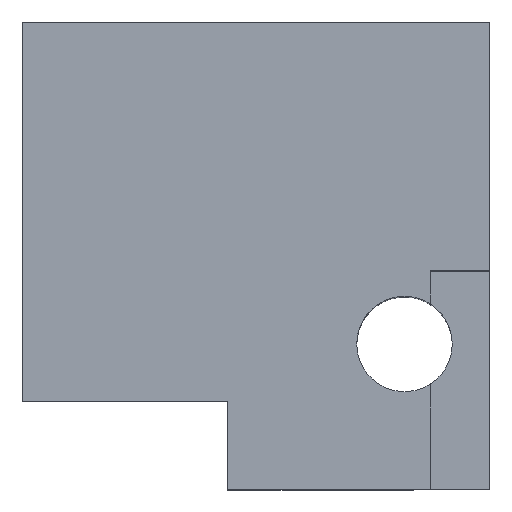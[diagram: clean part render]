
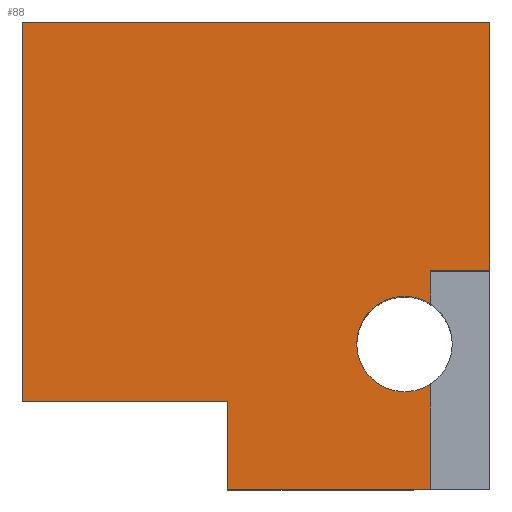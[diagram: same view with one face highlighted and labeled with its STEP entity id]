
A CAD part, top view. The second image highlights one B-rep face of the part: STEP entity #88.
In plain terms, the highlighted planar face has unit normal (0, 0, 1).
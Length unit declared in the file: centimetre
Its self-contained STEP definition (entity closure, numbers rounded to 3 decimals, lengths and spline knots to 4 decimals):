
#27 = FACE_OUTER_BOUND ( 'NONE', #1232, .T. ) ;
#37 = DIRECTION ( 'NONE',  ( 0., 0., 1. ) ) ;
#38 = DIRECTION ( 'NONE',  ( 0., 1., 0. ) ) ;
#51 = CARTESIAN_POINT ( 'NONE',  ( 1000., 467.2419, 1000. ) ) ;
#60 = LINE ( 'NONE', #1457, #585 ) ;
#68 = VERTEX_POINT ( 'NONE', #1164 ) ;
#76 = DIRECTION ( 'NONE',  ( -1., 0., 0. ) ) ;
#88 = ADVANCED_FACE ( 'NONE', ( #27 ), #658, .T. ) ;
#142 = EDGE_CURVE ( 'NONE', #939, #1284, #922, .T. ) ;
#163 = EDGE_CURVE ( 'NONE', #576, #1422, #1321, .T. ) ;
#197 = CARTESIAN_POINT ( 'NONE',  ( 1000., 1000., 1000. ) ) ;
#219 = VECTOR ( 'NONE', #1435, 100. ) ;
#247 = DIRECTION ( 'NONE',  ( 0., 0., 1. ) ) ;
#252 = AXIS2_PLACEMENT_3D ( 'NONE', #1556, #294, #796 ) ;
#270 = ORIENTED_EDGE ( 'NONE', *, *, #610, .F. ) ;
#294 = DIRECTION ( 'NONE',  ( 0., 0., 1. ) ) ;
#296 = VERTEX_POINT ( 'NONE', #51 ) ;
#312 = ORIENTED_EDGE ( 'NONE', *, *, #1641, .T. ) ;
#319 = VERTEX_POINT ( 'NONE', #197 ) ;
#321 = DIRECTION ( 'NONE',  ( 1., 0., 0. ) ) ;
#325 = CARTESIAN_POINT ( 'NONE',  ( 873.6912, 225.2614, 1000. ) ) ;
#329 = LINE ( 'NONE', #704, #662 ) ;
#335 = VECTOR ( 'NONE', #1090, 100. ) ;
#409 = CARTESIAN_POINT ( 'NONE',  ( 873.6912, 467.2419, 1000. ) ) ;
#441 = ORIENTED_EDGE ( 'NONE', *, *, #874, .F. ) ;
#529 = DIRECTION ( 'NONE',  ( 1., 0., 0. ) ) ;
#553 = DIRECTION ( 'NONE',  ( 0., 1., 0. ) ) ;
#574 = VECTOR ( 'NONE', #553, 100. ) ;
#576 = VERTEX_POINT ( 'NONE', #902 ) ;
#585 = VECTOR ( 'NONE', #967, 100. ) ;
#588 = CARTESIAN_POINT ( 'NONE',  ( 873.6912, 467.2419, 1000. ) ) ;
#610 = EDGE_CURVE ( 'NONE', #637, #879, #969, .T. ) ;
#637 = VERTEX_POINT ( 'NONE', #1053 ) ;
#658 = PLANE ( 'NONE',  #1579 ) ;
#662 = VECTOR ( 'NONE', #321, 100. ) ;
#667 = ORIENTED_EDGE ( 'NONE', *, *, #1303, .T. ) ;
#691 = EDGE_CURVE ( 'NONE', #68, #576, #1448, .T. ) ;
#704 = CARTESIAN_POINT ( 'NONE',  ( 0., 0., 1000. ) ) ;
#710 = ORIENTED_EDGE ( 'NONE', *, *, #1120, .F. ) ;
#718 = AXIS2_PLACEMENT_3D ( 'NONE', #1005, #247, #760 ) ;
#744 = CARTESIAN_POINT ( 'NONE',  ( 0., 188.3377, 1000. ) ) ;
#746 = EDGE_CURVE ( 'NONE', #879, #1123, #809, .T. ) ;
#752 = VECTOR ( 'NONE', #38, 100. ) ;
#760 = DIRECTION ( 'NONE',  ( 1., 0., 0. ) ) ;
#761 = ORIENTED_EDGE ( 'NONE', *, *, #142, .F. ) ;
#796 = DIRECTION ( 'NONE',  ( 1., 0., 0. ) ) ;
#809 = LINE ( 'NONE', #1417, #1427 ) ;
#841 = CARTESIAN_POINT ( 'NONE',  ( 873.6912, 467.2419, 1000. ) ) ;
#848 = CARTESIAN_POINT ( 'NONE',  ( 873.6912, 396.2983, 1000. ) ) ;
#874 = EDGE_CURVE ( 'NONE', #296, #939, #964, .T. ) ;
#876 = LINE ( 'NONE', #982, #1016 ) ;
#879 = VERTEX_POINT ( 'NONE', #325 ) ;
#902 = CARTESIAN_POINT ( 'NONE',  ( 439.9913, 188.3377, 1000. ) ) ;
#920 = ORIENTED_EDGE ( 'NONE', *, *, #163, .F. ) ;
#922 = LINE ( 'NONE', #409, #219 ) ;
#923 = CARTESIAN_POINT ( 'NONE',  ( 1000., 1000., 1000. ) ) ;
#939 = VERTEX_POINT ( 'NONE', #588 ) ;
#964 = LINE ( 'NONE', #841, #335 ) ;
#967 = DIRECTION ( 'NONE',  ( -1., 0., 0. ) ) ;
#969 = CIRCLE ( 'NONE', #252, 102.133 ) ;
#982 = CARTESIAN_POINT ( 'NONE',  ( 0., 1000., 1000. ) ) ;
#992 = CARTESIAN_POINT ( 'NONE',  ( 0., 1000., 1000. ) ) ;
#1005 = CARTESIAN_POINT ( 'NONE',  ( 817.8544, 310.7799, 1000. ) ) ;
#1016 = VECTOR ( 'NONE', #1277, 100. ) ;
#1035 = CARTESIAN_POINT ( 'NONE',  ( 0., 0., 1000. ) ) ;
#1040 = CIRCLE ( 'NONE', #718, 102.133 ) ;
#1048 = ORIENTED_EDGE ( 'NONE', *, *, #1510, .T. ) ;
#1053 = CARTESIAN_POINT ( 'NONE',  ( 715.7213, 310.7799, 1000. ) ) ;
#1061 = LINE ( 'NONE', #923, #752 ) ;
#1077 = VECTOR ( 'NONE', #76, 100. ) ;
#1090 = DIRECTION ( 'NONE',  ( -1., 0., 0. ) ) ;
#1120 = EDGE_CURVE ( 'NONE', #1284, #637, #1040, .T. ) ;
#1123 = VERTEX_POINT ( 'NONE', #1267 ) ;
#1151 = ORIENTED_EDGE ( 'NONE', *, *, #746, .F. ) ;
#1154 = DIRECTION ( 'NONE',  ( 0., -1., 0. ) ) ;
#1161 = ORIENTED_EDGE ( 'NONE', *, *, #1281, .T. ) ;
#1164 = CARTESIAN_POINT ( 'NONE',  ( 439.9913, 0., 1000. ) ) ;
#1216 = CARTESIAN_POINT ( 'NONE',  ( 439.9913, 0., 1000. ) ) ;
#1232 = EDGE_LOOP ( 'NONE', ( #920, #1320, #1161, #1151, #270, #710, #761, #441, #312, #667, #1048 ) ) ;
#1267 = CARTESIAN_POINT ( 'NONE',  ( 873.6912, 0., 1000. ) ) ;
#1277 = DIRECTION ( 'NONE',  ( 0., -1., 0. ) ) ;
#1281 = EDGE_CURVE ( 'NONE', #68, #1123, #329, .T. ) ;
#1284 = VERTEX_POINT ( 'NONE', #848 ) ;
#1303 = EDGE_CURVE ( 'NONE', #319, #1532, #60, .T. ) ;
#1320 = ORIENTED_EDGE ( 'NONE', *, *, #691, .F. ) ;
#1321 = LINE ( 'NONE', #1594, #1077 ) ;
#1417 = CARTESIAN_POINT ( 'NONE',  ( 873.6912, 467.2419, 1000. ) ) ;
#1422 = VERTEX_POINT ( 'NONE', #744 ) ;
#1427 = VECTOR ( 'NONE', #1154, 100. ) ;
#1435 = DIRECTION ( 'NONE',  ( 0., -1., 0. ) ) ;
#1448 = LINE ( 'NONE', #1216, #574 ) ;
#1457 = CARTESIAN_POINT ( 'NONE',  ( 0., 1000., 1000. ) ) ;
#1510 = EDGE_CURVE ( 'NONE', #1532, #1422, #876, .T. ) ;
#1532 = VERTEX_POINT ( 'NONE', #992 ) ;
#1556 = CARTESIAN_POINT ( 'NONE',  ( 817.8544, 310.7799, 1000. ) ) ;
#1579 = AXIS2_PLACEMENT_3D ( 'NONE', #1035, #37, #529 ) ;
#1594 = CARTESIAN_POINT ( 'NONE',  ( 439.9913, 188.3377, 1000. ) ) ;
#1641 = EDGE_CURVE ( 'NONE', #296, #319, #1061, .T. ) ;
